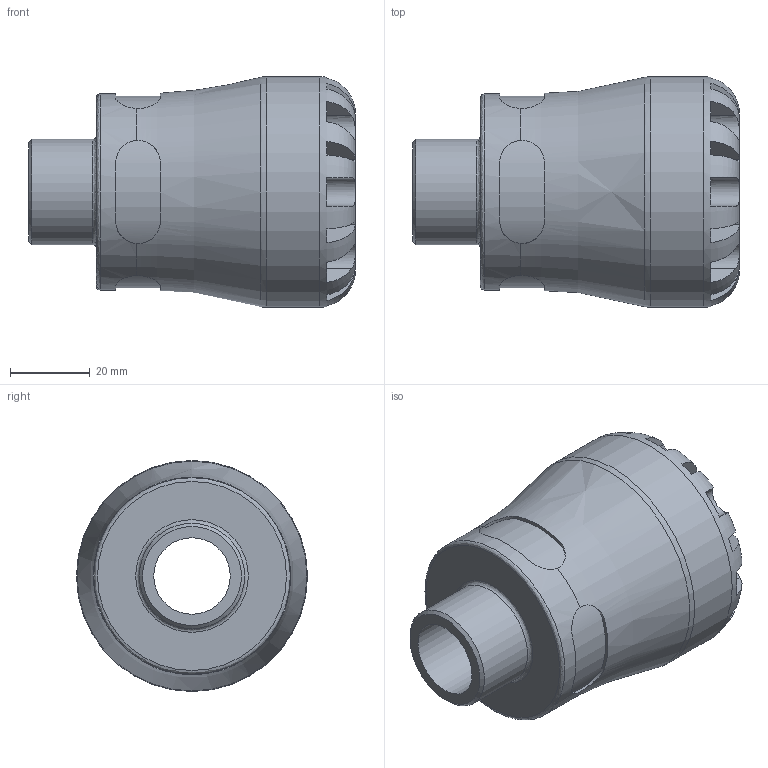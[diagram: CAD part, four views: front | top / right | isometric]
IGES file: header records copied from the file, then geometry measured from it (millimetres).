
Global section: file name: 100200032007_190200032007.ipt; native system: Autodesk Inventor 2015; preprocessor: unknown; author: KIM; date: 20170727.143943; units: millimetre
Bounding box: 82 x 58 x 58 mm (x, y, z)
Volume: 98787.1 mm3; surface area: 24392.5 mm2
Topology: 1 solids, 1 shells, 100 faces, 268 edges, 172 vertices
Faces by surface type: plane 60, revolution 24, cylinder 15, cone 1
Full cylindrical faces by diameter (mm): 26.441 x1, 49.3 x1, 58 x1
